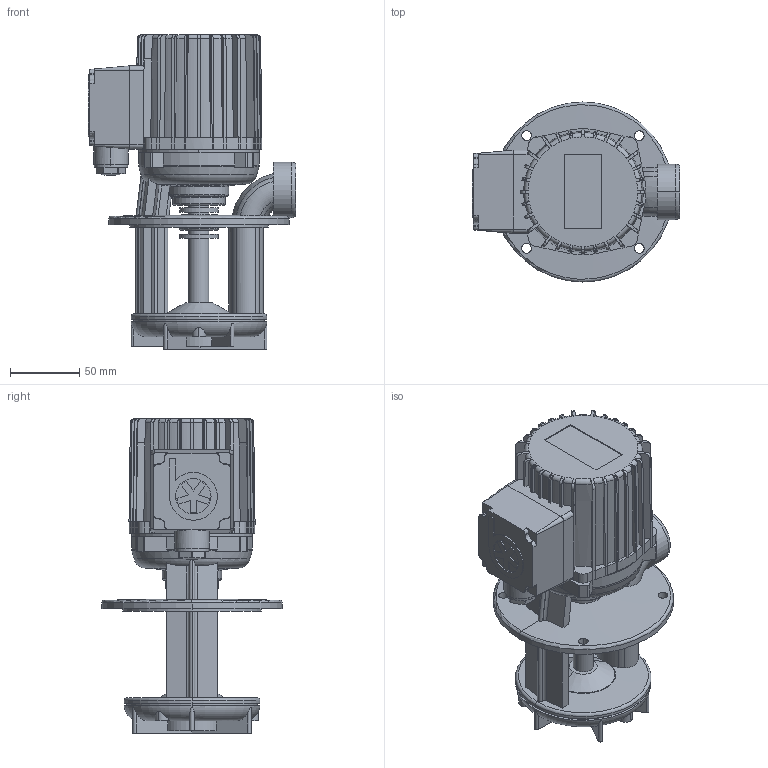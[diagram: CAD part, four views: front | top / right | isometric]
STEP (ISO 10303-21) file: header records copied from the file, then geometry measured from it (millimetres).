
FILE_DESCRIPTION(('no description'),'unknown implementation level');
FILE_NAME('TB25_90_28.stp',' ',('K. H. Brinkmann GmbH & Co. KG'),('CADClick - KiM GmbH - www.kimweb.de'),'unknown preprocess','ACIS','unknown authorization');
FILE_SCHEMA(('automotive_design'));
Length unit declared in the file: millimetre
Products named in the file (3): 1; 2; 3
Bounding box: 150 x 130 x 227 mm (x, y, z)
Volume: 1169279.3 mm3; surface area: 173309.9 mm2
Topology: 3 solids, 3 shells, 620 faces, 1658 edges, 1066 vertices
Faces by surface type: plane 307, cylinder 160, torus 85, cone 68
Entity records: 43186 total; most frequent: CARTESIAN_POINT 9335, STYLED_ITEM 3347, PRESENTATION_STYLE_ASSIGNMENT 3347, COLOUR_RGB 3347, ORIENTED_EDGE 3316, DIRECTION 3109, EDGE_CURVE 1658, CURVE_STYLE 1658
